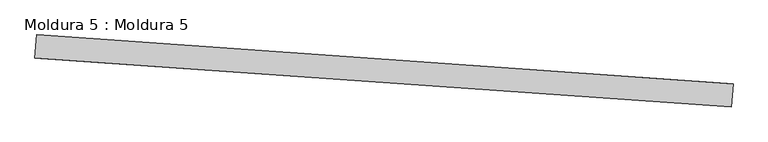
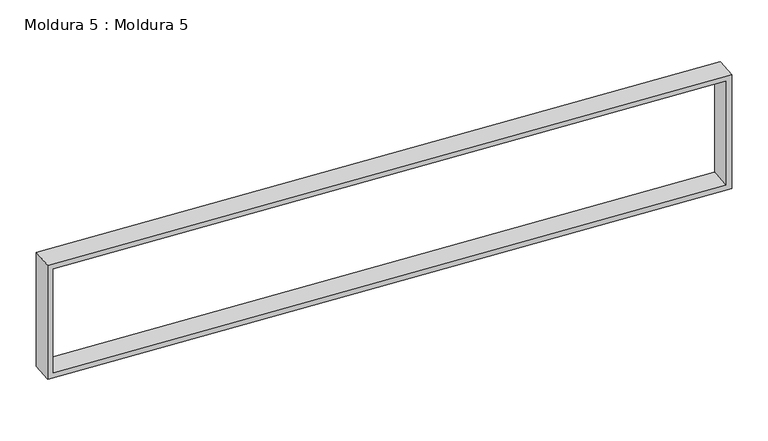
"""IFC4 building model written with IfcOpenShell, lengths in millimetres: proxy geometry, Moldura 5 : Moldura 5."""

from ifc_helpers import new_model, si_unit, frame, origin, place, context, project, spatial, polyline, outline, extrude, source, transform, mapped, element, save


def moldura_5_moldura_5_d687aa32(model_context):
    return source(origin(), model_context, "Body", "SweptSolid", [
        extrude(outline(polyline([(5950.0, -50.0), (-50.0, -50.0), (-50.0, 1050.0), (5950.0, 1050.0), (5950.0, -50.0)]), holes=[polyline([(5900.0, 1000.0), (0.0, 1000.0), (0.0, 0.0), (5900.0, 0.0), (5900.0, 1000.0)])]), frame((26182.6882028, -10158.0872036, 6300.0), z_axis=(0.07044601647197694, 0.9975155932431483, 0.0), x_axis=(0.9975155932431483, -0.07044601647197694, 0.0)), (0.0, 0.0, 1.0), 200.0),
    ])


if __name__ == "__main__":
    model = new_model("IFC4")
    model_context = context("Model", 3, world=origin())
    ifc_project = project(units=[si_unit("LENGTHUNIT", "METRE", prefix="MILLI")], contexts=[model_context])
    site = spatial("IfcSite", under=ifc_project)
    building = spatial("IfcBuilding", under=site)
    placement = place(None, origin())
    moldura_5_moldura_5_shape = moldura_5_moldura_5_d687aa32(model_context)
    element("IfcBuildingElementProxy", 1, Name="Moldura 5 : Moldura 5", ObjectType="Moldura 5 : Moldura 5", at=placement, inside=building, context=model_context, shape_type="MappedRepresentation", body=[
        mapped(moldura_5_moldura_5_shape, transform((0.0, 0.0, 0.0), x_axis=(1.0, 0.0, 0.0), y_axis=(0.0, 1.0, 0.0), z_axis=(0.0, 0.0, 1.0))),
    ])
    save(model, "model.ifc")
